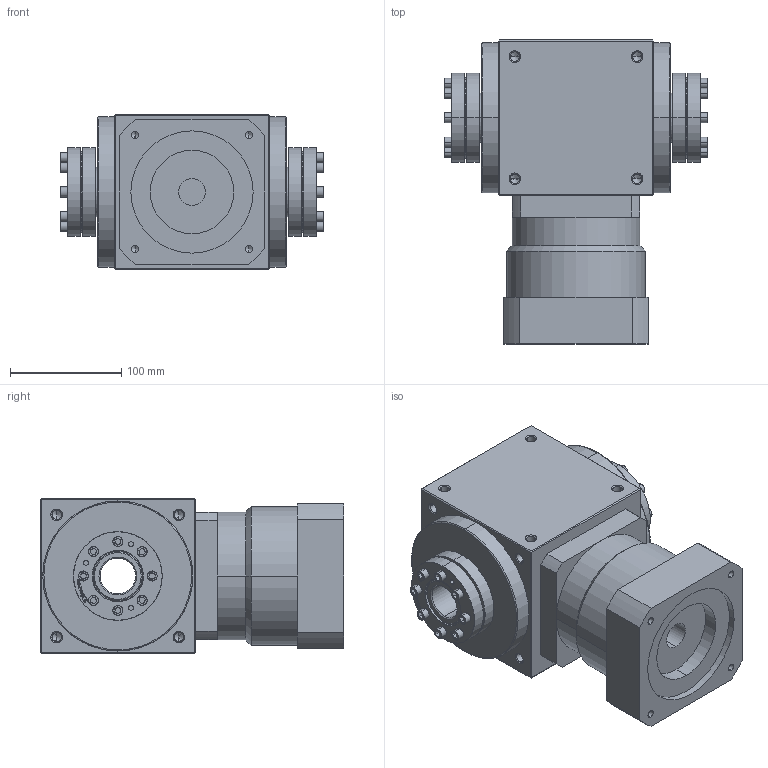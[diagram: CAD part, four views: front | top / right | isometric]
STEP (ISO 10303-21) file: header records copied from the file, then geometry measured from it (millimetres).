
FILE_DESCRIPTION (( 'STEP AP214' ), '1' );
FILE_NAME ('AT140-FC-L1 24-110-145-M8.STEP', '2021-04-24T06:34:29', ( 'Microsoft' ), ( 'Microsoft China' ), 'SwSTEP 2.0', 'SolidWorks 2016', '' );
FILE_SCHEMA (( 'AUTOMOTIVE_DESIGN' ));
Length unit declared in the file: millimetre
Products named in the file (3): AT140-FC-L1 24-110-145-M8; AT140-FC-L1-2KW; 83_44x80
Assembly tree (3 placements, depth 2):
  AT140-FC-L1 24-110-145-M8
    AT140-FC-L1-2KW
    83_44x80  x2
Bounding box: 237.2 x 273.5 x 140 mm (x, y, z)
Volume: 4860239 mm3; surface area: 320879.8 mm2
Topology: 25 solids, 25 shells, 1225 faces, 2888 edges, 1726 vertices
Faces by surface type: cylinder 534, plane 309, cone 274, torus 64, bspline 44
Entity records: 22376 total; most frequent: CARTESIAN_POINT 5273, DIRECTION 3628, ORIENTED_EDGE 3496, EDGE_CURVE 1748, AXIS2_PLACEMENT_3D 1398, VERTEX_POINT 1062, EDGE_LOOP 856, LINE 832
